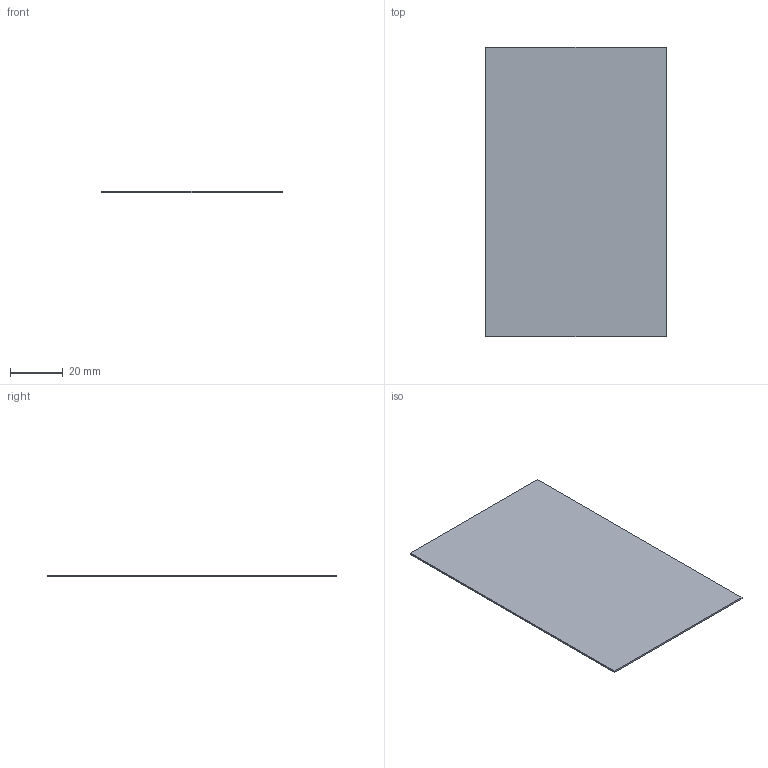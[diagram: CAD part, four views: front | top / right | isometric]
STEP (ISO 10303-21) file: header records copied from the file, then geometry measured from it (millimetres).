
FILE_DESCRIPTION(/* description */ ('STEP AP242 Edition 2','CAx-IF Rec.Pracs.---Representation and Presentation of Product Manufacturing Information (PMI)---4.0---2014-10-13','CAx-IF Rec.Pracs.---3D Tessellated Geometry---0.4---2014-09-14','2;1','CAx-IF Rec.Pracs.---User Defined Attributes---1.5---2016-08-15'),/* implementation_level */ '2;1');
FILE_NAME(/* name */ 'Assembly 1 - Part 1',/* time_stamp */ '2026-07-23T10:03:21Z',/* author */ (''),/* organization */ (''),/* preprocessor_version */ 'ST-DEVELOPER v20',/* originating_system */ 'ONSHAPE BY PTC INC, 1.218',/* authorisation */ ' ');
FILE_SCHEMA (('AP242_MANAGED_MODEL_BASED_3D_ENGINEERING_MIM_LF { 1 0 10303 442 3 1 4 }'));
Length unit declared in the file: metre
Products named in the file (1): Part 1
Bounding box: 68.3 x 109.5 x 0.65 mm (x, y, z)
Volume: 4861.3 mm3; surface area: 15188.8 mm2
Topology: 1 solids, 1 shells, 6 faces, 12 edges, 8 vertices
Faces by surface type: plane 6
Entity records: 180 total; most frequent: CARTESIAN_POINT 27, DIRECTION 26, ORIENTED_EDGE 24, EDGE_CURVE 12, LINE 12, VECTOR 12, VERTEX_POINT 8, AXIS2_PLACEMENT_3D 7
